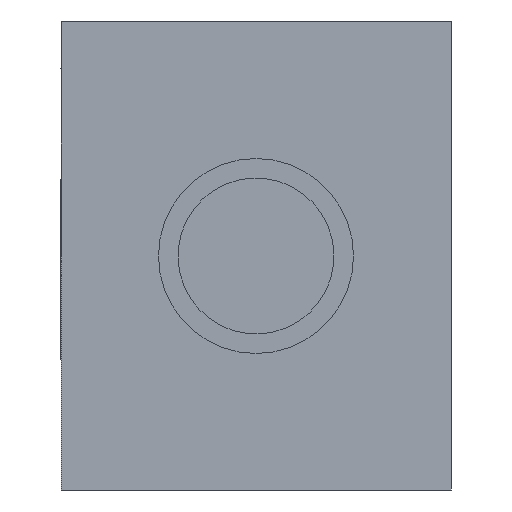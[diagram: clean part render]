
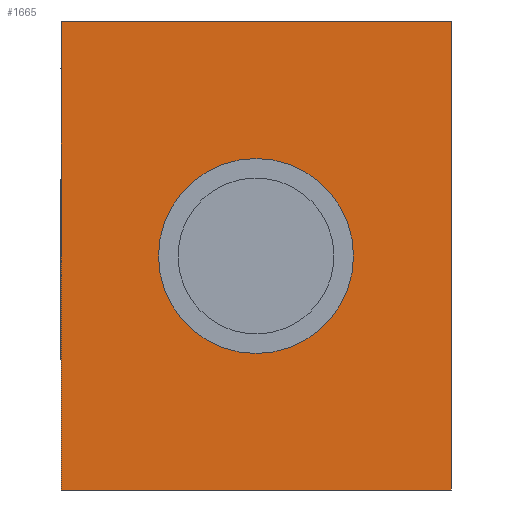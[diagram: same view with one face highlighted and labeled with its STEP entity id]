
A CAD part, front view. The second image highlights one B-rep face of the part: STEP entity #1665.
In plain terms, the highlighted planar face has unit normal (0, -1, 0).
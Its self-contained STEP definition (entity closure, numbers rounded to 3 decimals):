
#1361=CARTESIAN_POINT('',(1.25,-16.,0.));
#1362=VERTEX_POINT('',#1361);
#1363=CARTESIAN_POINT('',(0.,-16.,0.0));
#1364=DIRECTION('',(0.0,1.0,0.0));
#1365=DIRECTION('',(-1.0,0.0,0.0));
#1366=AXIS2_PLACEMENT_3D('',#1363,#1364,#1365);
#1367=CIRCLE('',#1366,1.25);
#1368=EDGE_CURVE('',#1362,#1362,#1367,.T.);
#1423=CARTESIAN_POINT('',(-2.5,-16.0,-3.));
#1424=VERTEX_POINT('',#1423);
#1431=CARTESIAN_POINT('',(-2.5,-16.0,3.));
#1432=VERTEX_POINT('',#1431);
#1433=CARTESIAN_POINT('',(-2.5,-16.0,-3.));
#1434=DIRECTION('',(0.0,0.0,1.0));
#1435=VECTOR('',#1434,6.);
#1436=LINE('',#1433,#1435);
#1437=EDGE_CURVE('',#1424,#1432,#1436,.T.);
#1571=CARTESIAN_POINT('',(2.5,-16.,3.));
#1572=VERTEX_POINT('',#1571);
#1579=CARTESIAN_POINT('',(2.5,-16.,-3.));
#1580=VERTEX_POINT('',#1579);
#1581=CARTESIAN_POINT('',(2.5,-16.,-3.));
#1582=DIRECTION('',(0.0,0.0,1.0));
#1583=VECTOR('',#1582,6.);
#1584=LINE('',#1581,#1583);
#1585=EDGE_CURVE('',#1580,#1572,#1584,.T.);
#1612=CARTESIAN_POINT('',(2.5,-16.,3.));
#1613=DIRECTION('',(-1.0,0.0,0.0));
#1614=VECTOR('',#1613,5.0);
#1615=LINE('',#1612,#1614);
#1616=EDGE_CURVE('',#1572,#1432,#1615,.T.);
#1646=CARTESIAN_POINT('',(2.5,-16.,-3.));
#1647=DIRECTION('',(0.0,-1.0,0.0));
#1648=DIRECTION('',(0.0,0.0,-1.0));
#1649=AXIS2_PLACEMENT_3D('',#1646,#1647,#1648);
#1650=PLANE('',#1649);
#1651=ORIENTED_EDGE('',*,*,#1616,.T.);
#1652=ORIENTED_EDGE('',*,*,#1437,.F.);
#1653=CARTESIAN_POINT('',(-2.5,-16.0,-3.));
#1654=DIRECTION('',(1.0,0.0,0.0));
#1655=VECTOR('',#1654,5.0);
#1656=LINE('',#1653,#1655);
#1657=EDGE_CURVE('',#1424,#1580,#1656,.T.);
#1658=ORIENTED_EDGE('',*,*,#1657,.T.);
#1659=ORIENTED_EDGE('',*,*,#1585,.T.);
#1660=EDGE_LOOP('',(#1651,#1652,#1658,#1659));
#1661=FACE_OUTER_BOUND('',#1660,.T.);
#1662=ORIENTED_EDGE('',*,*,#1368,.T.);
#1663=EDGE_LOOP('',(#1662));
#1664=FACE_BOUND('',#1663,.T.);
#1665=ADVANCED_FACE('',(#1661,#1664),#1650,.T.);
